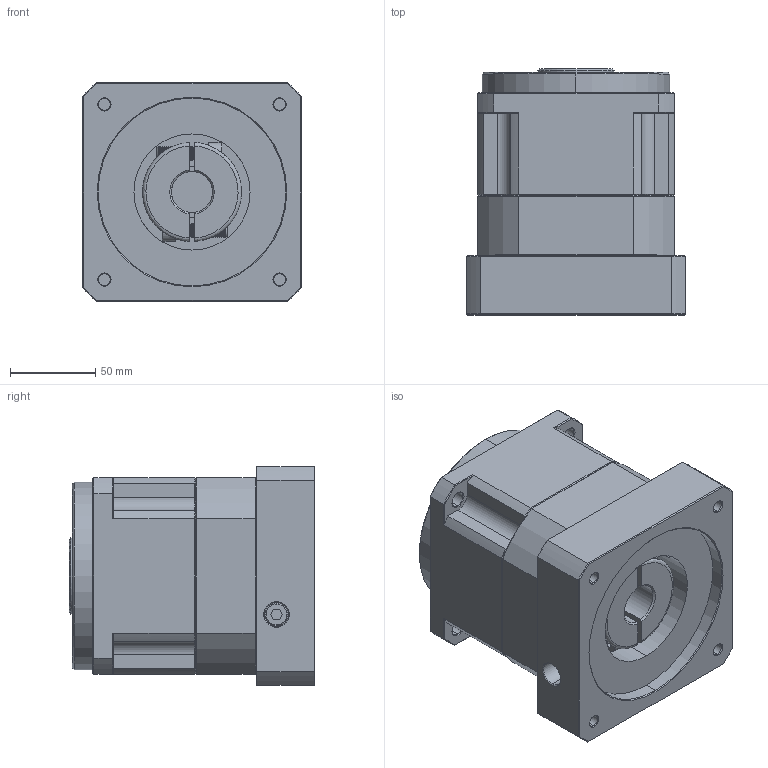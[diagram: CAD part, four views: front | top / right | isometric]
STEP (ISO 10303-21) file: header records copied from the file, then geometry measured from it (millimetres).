
FILE_DESCRIPTION (( 'STEP AP214' ), '1' );
FILE_NAME ('ZPB115-K32-L1-P1-24-110-145-M8.step', '2024-06-12T09:58:37', ( 'Windows 蚚誧' ), ( 'Organization' ), 'SwSTEP 2.0', 'SolidWorks 2016', '' );
FILE_SCHEMA (( 'AUTOMOTIVE_DESIGN' ));
Length unit declared in the file: millimetre
Products named in the file (1): ZPB115-K32-L1-P1-24-110-145-M8
Bounding box: 128 x 144 x 128 mm (x, y, z)
Surface area: 133004.9 mm2 (no closed solid volume)
Topology: 0 solids, 28 shells, 1760 faces, 4763 edges, 3066 vertices
Faces by surface type: plane 910, bspline 374, cone 260, cylinder 216
Entity records: 85238 total; most frequent: CARTESIAN_POINT 37648, ORIENTED_EDGE 9524, DIRECTION 7286, EDGE_CURVE 4763, VECTOR 3122, LINE 3122, VERTEX_POINT 3066, AXIS2_PLACEMENT_3D 2082
